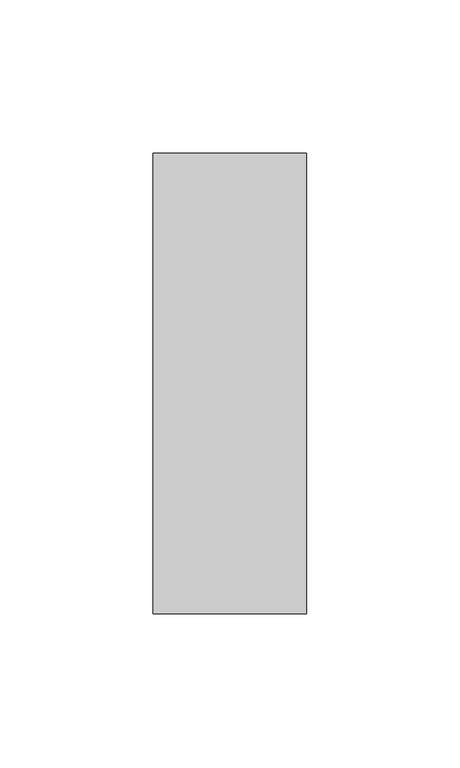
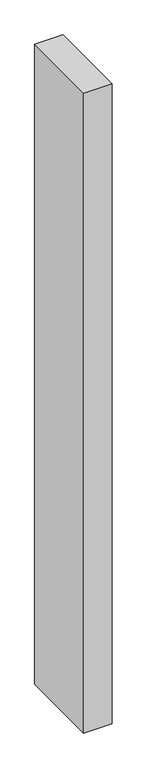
"""IFC4 building model written with IfcOpenShell, lengths in millimetres: member geometry, Прямоугольный импост : 50 x 150 мм."""

from ifc_helpers import new_model, si_unit, frame, origin, place, context, project, spatial, polyline, outline, extrude, source, transform, mapped, element, save


def member_90e2037d(model_context):
    return source(origin(), model_context, "Body", "SweptSolid", [
        extrude(outline(polyline([(25.0, 75.0), (25.0, -75.0), (-25.0, -75.0), (-25.0, 75.0), (25.0, 75.0)])), frame((0.0, 0.0, -1194.5091337), z_axis=(0.0, 0.0, 1.0), x_axis=(1.0, 0.0, 0.0)), (0.0, 0.0, 1.0), 1194.5091337),
    ])


if __name__ == "__main__":
    model = new_model("IFC4")
    model_context = context("Model", 3, world=origin())
    ifc_project = project(units=[si_unit("LENGTHUNIT", "METRE", prefix="MILLI")], contexts=[model_context])
    site = spatial("IfcSite", under=ifc_project)
    building = spatial("IfcBuilding", under=site)
    placement = place(None, origin())
    member_shape = member_90e2037d(model_context)
    element("IfcMember", 1, ObjectType="Прямоугольный импост : 50 x 150 мм", at=placement, inside=building, context=model_context, shape_type="MappedRepresentation", body=[
        mapped(member_shape, transform((0.0, 0.0, 0.0), x_axis=(1.0, 0.0, 0.0), y_axis=(0.0, 1.0, 0.0), z_axis=(0.0, 0.0, 1.0))),
    ])
    save(model, "model.ifc")
